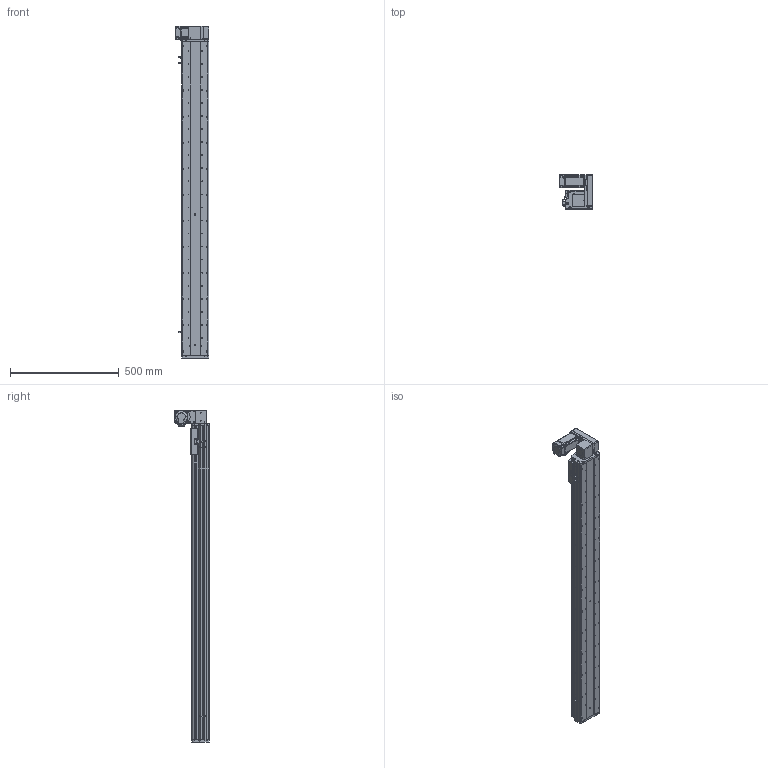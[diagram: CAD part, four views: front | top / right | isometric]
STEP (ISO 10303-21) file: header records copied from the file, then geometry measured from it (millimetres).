
FILE_DESCRIPTION (( 'STEP AP214' ), '1' );
FILE_NAME ('KSD125B-S1250-MLU-CM.STEP', '2017-10-21T03:34:43', ( '微软用户' ), ( '微软中国' ), 'SwSTEP 2.0', 'SolidWorks 2014', '' );
FILE_SCHEMA (( 'AUTOMOTIVE_DESIGN' ));
Length unit declared in the file: millimetre
Products named in the file (17): MHMD042G1CA_2_03; KSD125模组同步带-防撞垫2; 覜茼え68遵圉猾敕; U倰嫖萇假蚾璃; U倰嫖萇EEㄜSX672; KSD125模组同步带-防撞垫1; 前端板-125宽模组同步带; 125模组同步带-尾端板1; KSD125模组同步带-滑动座1; KSD125B-S1250-MLU-CM; 悵誘欶奻狟殏; 100宽马达安装板连板上下折丝杆同步带; HTPA30S3M150_A_H6_a佪裝蚚; HTPA30S3M150_A_H6_a萇儂蚚; 100宽马达安装板同步带左; KSD125模组1250行程同步带-防尘盖; 125模组1250行程同步带-底板
Assembly tree (20 placements, depth 2):
  KSD125B-S1250-MLU-CM
    KSD125模组同步带-滑动座1
    125模组同步带-尾端板1
    前端板-125宽模组同步带
    KSD125模组同步带-防撞垫1
    U倰嫖萇EEㄜSX672  x3
    U倰嫖萇假蚾璃  x3
    覜茼え68遵圉猾敕
    KSD125模组同步带-防撞垫2
    MHMD042G1CA_2_03
    125模组1250行程同步带-底板
    KSD125模组1250行程同步带-防尘盖
    100宽马达安装板同步带左
    HTPA30S3M150_A_H6_a萇儂蚚
    HTPA30S3M150_A_H6_a佪裝蚚
    100宽马达安装板连板上下折丝杆同步带
    悵誘欶奻狟殏
Bounding box: 155 x 157.5 x 1527 mm (x, y, z)
Volume: 4593687.6 mm3; surface area: 1530424.9 mm2
Topology: 19 solids, 22 shells, 2347 faces, 6805 edges, 4498 vertices
Faces by surface type: cylinder 1488, plane 732, cone 105, bspline 22
Entity records: 83843 total; most frequent: CARTESIAN_POINT 16515, DIRECTION 13026, ORIENTED_EDGE 12130, EDGE_CURVE 6143, AXIS2_PLACEMENT_3D 5049, VERTEX_POINT 4090, LINE 2928, VECTOR 2928
